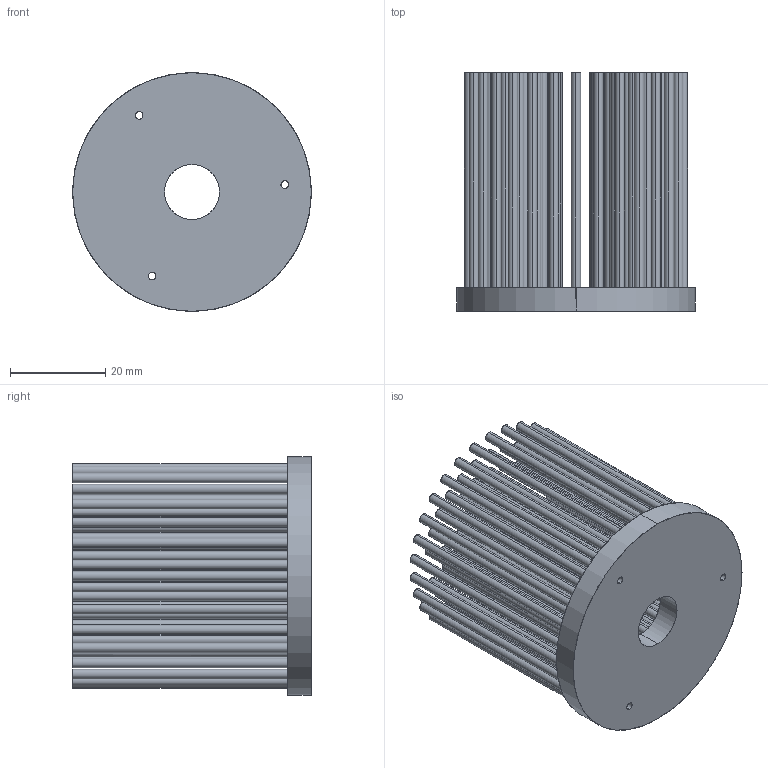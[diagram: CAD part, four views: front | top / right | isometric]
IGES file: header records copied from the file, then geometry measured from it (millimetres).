
Start section: SolidWorks IGES file using analytic representation for surfaces
Global section: file name: C:\Documents and Settings\Administrator\桌面\27-06-2012\M2\XSA-61-M2 (O50mm X 50mm).IGS,1; native system: 5HSolidWorks 2011; preprocessor: SolidWorks 2011; author: Administrator; date: 120627.165617; units: millimetre
Bounding box: 50 x 50 x 50 mm (x, y, z)
Surface area: 30195.7 mm2 (no closed solid volume)
Topology: 0 solids, 0 shells, 284 faces, 6806 edges, 6806 vertices
Faces by surface type: revolution 190, bspline 94
